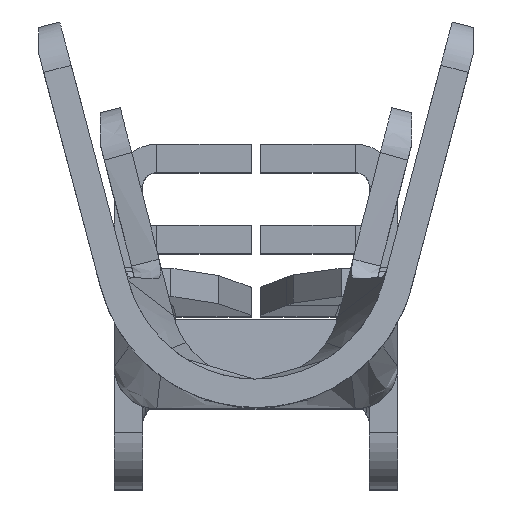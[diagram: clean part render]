
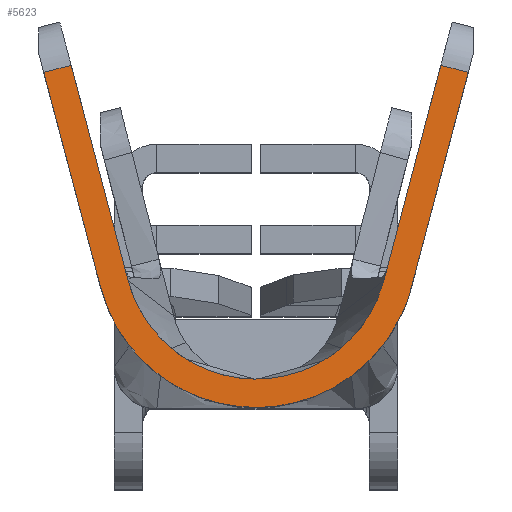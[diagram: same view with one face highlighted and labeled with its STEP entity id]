
A CAD part, top view. The second image highlights one B-rep face of the part: STEP entity #5623.
In plain terms, the highlighted planar face has unit normal (0, 0.054, 0.999).
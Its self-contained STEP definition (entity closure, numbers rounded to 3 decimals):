
#1146=CARTESIAN_POINT('',(1.354,1.342,
-0.073));
#1147=CARTESIAN_POINT('',(1.325,1.236,
-0.067));
#1148=CARTESIAN_POINT('',(1.269,1.1,
-0.06));
#1149=CARTESIAN_POINT('',(1.156,0.897,
-0.049));
#1150=CARTESIAN_POINT('',(1.015,0.727,
-0.039));
#1151=CARTESIAN_POINT('',(0.846,0.578,
-0.031));
#1152=CARTESIAN_POINT('',(0.62,0.433,
-0.023));
#1153=CARTESIAN_POINT('',(0.338,0.327,
-0.018));
#1154=CARTESIAN_POINT('',(0.,0.287,-0.016));
#1155=CARTESIAN_POINT('',(-0.338,0.327,
-0.018));
#1156=CARTESIAN_POINT('',(-0.62,0.433,
-0.023));
#1157=CARTESIAN_POINT('',(-0.846,0.578,
-0.031));
#1158=CARTESIAN_POINT('',(-1.015,0.727,
-0.039));
#1159=CARTESIAN_POINT('',(-1.156,0.897,
-0.049));
#1160=CARTESIAN_POINT('',(-1.269,1.1,
-0.06));
#1161=CARTESIAN_POINT('',(-1.325,1.236,
-0.067));
#1162=CARTESIAN_POINT('',(-1.354,1.342,
-0.073));
#1192=DIRECTION('',(0.255,0.966,-0.052));
#1193=VECTOR('',#1192,2.361);
#1194=CARTESIAN_POINT('',(1.354,1.342,
-0.073));
#1195=LINE('',#1194,#1193);
#1241=DIRECTION('',(0.255,0.966,-0.052));
#1242=VECTOR('',#1241,2.361);
#1243=CARTESIAN_POINT('',(1.644,1.266,
-0.069));
#1244=LINE('',#1243,#1242);
#1248=CARTESIAN_POINT('',(2.246,3.545,
-0.192));
#1254=CARTESIAN_POINT('',(-1.644,1.266,
-0.069));
#1255=CARTESIAN_POINT('',(-1.609,1.136,
-0.062));
#1256=CARTESIAN_POINT('',(-1.541,0.971,
-0.053));
#1257=CARTESIAN_POINT('',(-1.404,0.725,
-0.039));
#1258=CARTESIAN_POINT('',(-1.233,0.518,
-0.028));
#1259=CARTESIAN_POINT('',(-1.027,0.337,
-0.018));
#1260=CARTESIAN_POINT('',(-0.753,0.162,
-0.009));
#1261=CARTESIAN_POINT('',(-0.411,0.033,
-0.002));
#1262=CARTESIAN_POINT('',(0.,-0.016,0.001));
#1263=CARTESIAN_POINT('',(0.411,0.033,
-0.002));
#1264=CARTESIAN_POINT('',(0.753,0.162,
-0.009));
#1265=CARTESIAN_POINT('',(1.027,0.337,
-0.018));
#1266=CARTESIAN_POINT('',(1.233,0.518,
-0.028));
#1267=CARTESIAN_POINT('',(1.404,0.725,
-0.039));
#1268=CARTESIAN_POINT('',(1.541,0.971,
-0.053));
#1269=CARTESIAN_POINT('',(1.609,1.136,
-0.062));
#1270=CARTESIAN_POINT('',(1.644,1.266,
-0.069));
#1291=DIRECTION('',(0.967,-0.255,0.014));
#1292=VECTOR('',#1291,0.3);
#1293=CARTESIAN_POINT('',(1.956,3.622,
-0.196));
#1294=LINE('',#1293,#1292);
#1295=DIRECTION('',(0.967,0.255,-0.014));
#1296=VECTOR('',#1295,0.3);
#1297=CARTESIAN_POINT('',(-2.246,3.545,
-0.192));
#1298=LINE('',#1297,#1296);
#1339=DIRECTION('',(0.255,-0.966,0.052));
#1340=VECTOR('',#1339,2.361);
#1341=CARTESIAN_POINT('',(-2.246,3.545,
-0.192));
#1342=LINE('',#1341,#1340);
#1373=DIRECTION('',(0.255,-0.966,0.052));
#1374=VECTOR('',#1373,2.361);
#1375=CARTESIAN_POINT('',(-1.956,3.622,
-0.196));
#1376=LINE('',#1375,#1374);
#1381=CARTESIAN_POINT('',(-1.956,3.622,
-0.196));
#2917=CARTESIAN_POINT('',(-1.644,1.266,
-0.069));
#2918=VERTEX_POINT('',#2917);
#2919=CARTESIAN_POINT('',(1.644,1.266,
-0.069));
#2920=VERTEX_POINT('',#2919);
#2921=CARTESIAN_POINT('',(-1.354,1.342,
-0.073));
#2922=VERTEX_POINT('',#2921);
#2923=CARTESIAN_POINT('',(1.354,1.342,
-0.073));
#2924=VERTEX_POINT('',#2923);
#2934=VERTEX_POINT('',#1248);
#2935=CARTESIAN_POINT('',(1.956,3.622,
-0.196));
#2936=VERTEX_POINT('',#2935);
#2944=VERTEX_POINT('',#1381);
#2945=CARTESIAN_POINT('',(-2.246,3.545,
-0.192));
#2946=VERTEX_POINT('',#2945);
#5604=CARTESIAN_POINT('',(5.,0.,0.));
#5605=DIRECTION('',(0.,-0.054,-0.999));
#5606=DIRECTION('',(0.,0.999,-0.054));
#5607=AXIS2_PLACEMENT_3D('',#5604,#5605,#5606);
#5608=PLANE('',#5607);
#5610=ORIENTED_EDGE('',*,*,#5609,.T.);
#5611=ORIENTED_EDGE('',*,*,#5578,.F.);
#5612=ORIENTED_EDGE('',*,*,#5592,.F.);
#5614=ORIENTED_EDGE('',*,*,#5613,.F.);
#5616=ORIENTED_EDGE('',*,*,#5615,.T.);
#5618=ORIENTED_EDGE('',*,*,#5617,.T.);
#5619=ORIENTED_EDGE('',*,*,#5437,.F.);
#5620=ORIENTED_EDGE('',*,*,#5457,.T.);
#5621=EDGE_LOOP('',(#5610,#5611,#5612,#5614,#5616,#5618,#5619,#5620));
#5622=FACE_OUTER_BOUND('',#5621,.F.);
#1163=B_SPLINE_CURVE_WITH_KNOTS('',3,(#1146,#1147,#1148,#1149,#1150,#1151,#1152,
#1153,#1154,#1155,#1156,#1157,#1158,#1159,#1160,#1161,#1162),.UNSPECIFIED.,.F.,
.F.,(4,1,1,1,1,1,1,1,1,1,1,1,1,1,4),(0.,0.031,0.063,0.125,0.188,
0.25,0.375,0.5,0.625,0.75,0.813,0.875,0.938,0.969,1.),
.UNSPECIFIED.);
#1271=B_SPLINE_CURVE_WITH_KNOTS('',3,(#1254,#1255,#1256,#1257,#1258,#1259,#1260,
#1261,#1262,#1263,#1264,#1265,#1266,#1267,#1268,#1269,#1270),.UNSPECIFIED.,.F.,
.F.,(4,1,1,1,1,1,1,1,1,1,1,1,1,1,4),(0.,0.031,0.063,0.125,0.188,
0.25,0.375,0.5,0.625,0.75,0.813,0.875,0.938,0.969,1.),
.UNSPECIFIED.);
#5437=EDGE_CURVE('',#2924,#2922,#1163,.T.);
#5457=EDGE_CURVE('',#2924,#2936,#1195,.T.);
#5578=EDGE_CURVE('',#2920,#2934,#1244,.T.);
#5592=EDGE_CURVE('',#2918,#2920,#1271,.T.);
#5609=EDGE_CURVE('',#2936,#2934,#1294,.T.);
#5613=EDGE_CURVE('',#2946,#2918,#1342,.T.);
#5615=EDGE_CURVE('',#2946,#2944,#1298,.T.);
#5617=EDGE_CURVE('',#2944,#2922,#1376,.T.);
#5623=ADVANCED_FACE('',(#5622),#5608,.F.);
